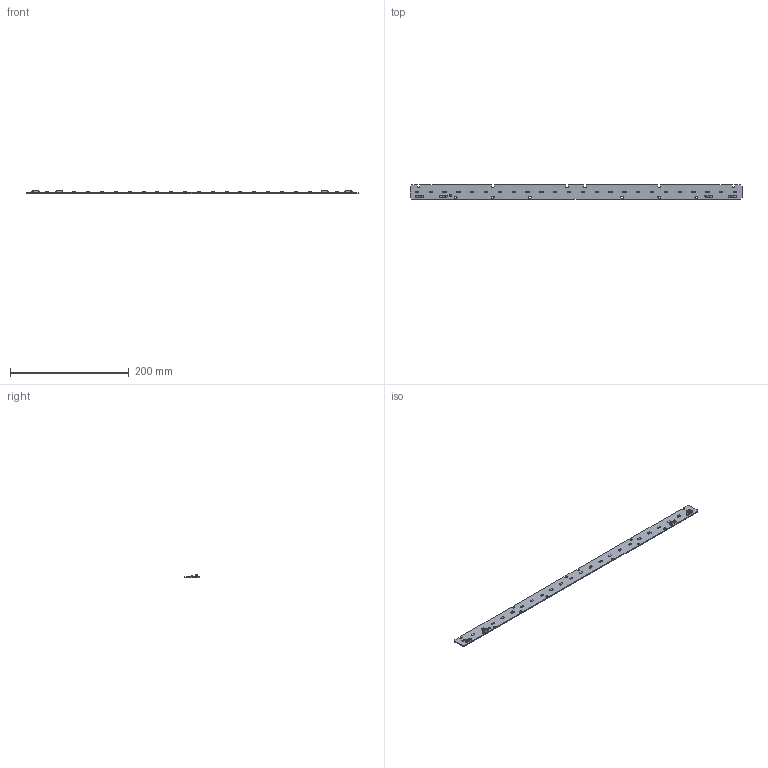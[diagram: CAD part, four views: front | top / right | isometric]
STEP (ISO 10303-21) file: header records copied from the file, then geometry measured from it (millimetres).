
FILE_DESCRIPTION((''),'2;1');
FILE_NAME('16206871_LLE-G4_24X560_1300LM','2016-02-19T',('bernhard.fink'),(''),'PRO/ENGINEER BY PARAMETRIC TECHNOLOGY CORPORATION, 2015200','PRO/ENGINEER BY PARAMETRIC TECHNOLOGY CORPORATION, 2015200','');
FILE_SCHEMA(('AUTOMOTIVE_DESIGN { 1 0 10303 214 1 1 1 1 }'));
Products named in the file (1): 16206871_LLE-G4_24X560_1300LM
Bounding box: 559 x 23.6 x 5.1 mm (x, y, z)
Volume: 22232.6 mm3; surface area: 29240.3 mm2
Topology: 1 solids, 1 shells, 1926 faces, 5200 edges, 3300 vertices
Faces by surface type: plane 980, cylinder 574, bspline 232, cone 68, revolution 24, torus 24, sphere 24
Entity records: 97044 total; most frequent: CARTESIAN_POINT 23200, ORIENTED_EDGE 10304, DIRECTION 8320, PRESENTATION_STYLE_ASSIGNMENT 6911, STYLED_ITEM 5177, CURVE_STYLE 5176, EDGE_CURVE 5152, VERTEX_POINT 3300
